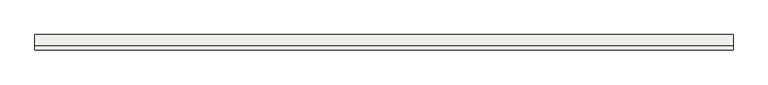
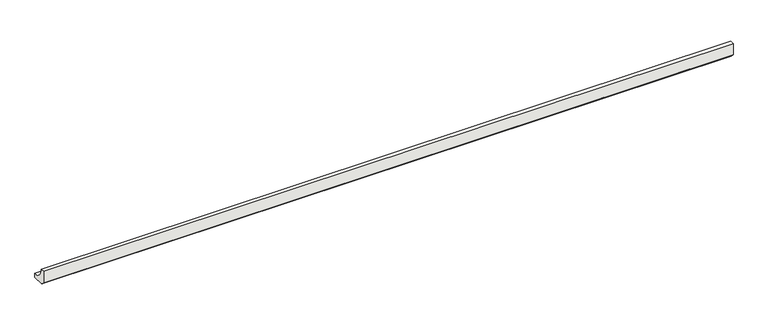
"""IFC4 building model written with IfcOpenShell, lengths in millimetres: slab geometry, ROSA GRES_188 : Pieza 188_Pietro_White_Anti-Slip."""

from ifc_helpers import new_model, si_unit, point, frame, frame_2d, origin, place, context, project, spatial, polyline, circle_curve, trimmed, segment, composite_curve, outline, extrude, source, transform, mapped, element, save


def slab_eabddf9c(model_context):
    return source(origin(), model_context, "Body", "SweptSolid", [
        extrude(outline(composite_curve([segment(polyline([(0.0, 8.7114978), (0.0, 40.0), (9.9734114, 40.0)]), True, "CONTINUOUS"), segment(trimmed(circle_curve(frame_2d((39.9955547, 39.9955547)), 30.0221435), [point((9.9734114, 40.0))], [point((40.0, 9.9734114))], True, "CARTESIAN"), True, "CONTINUOUS"), segment(polyline([(40.0, 9.9734114), (40.0, 0.0), (8.7114978, 0.0), (0.0, 8.7114978)]), True, "CONTINUOUS")], self_intersect=False)), frame((0.0, 0.0, 0.0), z_axis=(1.0, 0.0, 0.0), x_axis=(0.0, 1.0, 0.0)), (0.0, 0.0, 1.0), 1822.7786538),
    ])


if __name__ == "__main__":
    model = new_model("IFC4")
    model_context = context("Model", 3, world=origin())
    ifc_project = project(units=[si_unit("LENGTHUNIT", "METRE", prefix="MILLI")], contexts=[model_context])
    site = spatial("IfcSite", under=ifc_project)
    building = spatial("IfcBuilding", under=site)
    placement = place(None, origin())
    slab_shape = slab_eabddf9c(model_context)
    element("IfcSlab", 1, ObjectType="ROSA GRES_188 : Pieza 188_Pietro_White_Anti-Slip", at=placement, inside=building, context=model_context, shape_type="MappedRepresentation", body=[
        mapped(slab_shape, transform((0.0, 0.0, 0.0), x_axis=(1.0, 0.0, 0.0), y_axis=(0.0, 1.0, 0.0), z_axis=(0.0, 0.0, 1.0))),
    ])
    save(model, "model.ifc")
